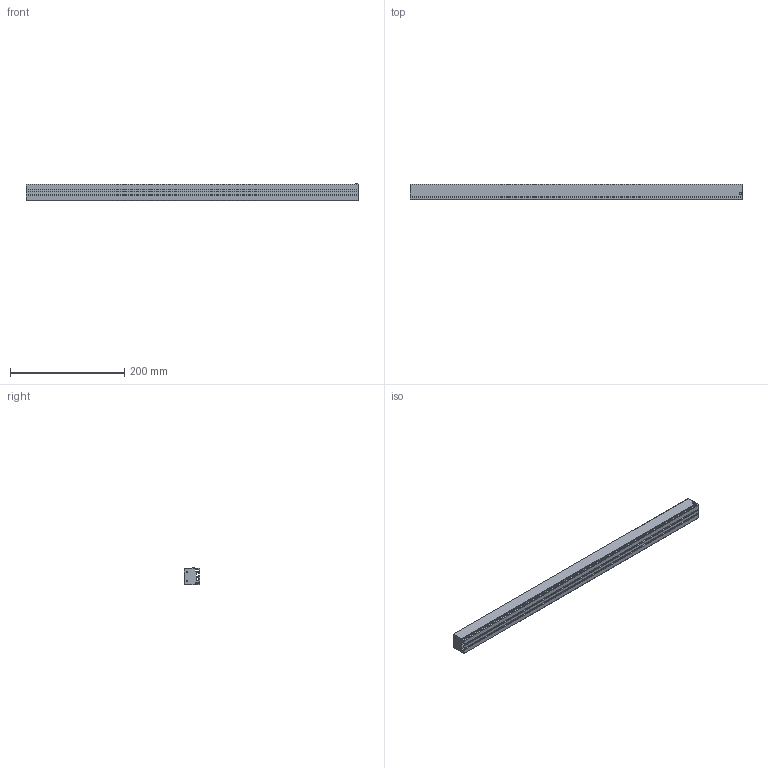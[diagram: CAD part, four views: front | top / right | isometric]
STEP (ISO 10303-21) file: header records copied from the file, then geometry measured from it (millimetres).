
FILE_DESCRIPTION (( 'STEP AP203' ), '1' );
FILE_NAME ('LRD-B4-580.STEP', '2022-08-22T06:58:38', ( 'TNT' ), ( '' ), 'SwSTEP 2.0', 'SolidWorks 2018', '' );
FILE_SCHEMA (( 'CONFIG_CONTROL_DESIGN' ));
Length unit declared in the file: millimetre
Products named in the file (1): LRD-B4-580
Bounding box: 580 x 27.7 x 30.6 mm (x, y, z)
Volume: 380006 mm3; surface area: 105617.4 mm2
Topology: 1 solids, 1 shells, 66 faces, 178 edges, 112 vertices
Faces by surface type: plane 48, cylinder 10, cone 8
Entity records: 2059 total; most frequent: CARTESIAN_POINT 349, ORIENTED_EDGE 340, DIRECTION 324, EDGE_CURVE 170, VECTOR 150, LINE 150, VERTEX_POINT 112, AXIS2_PLACEMENT_3D 87
